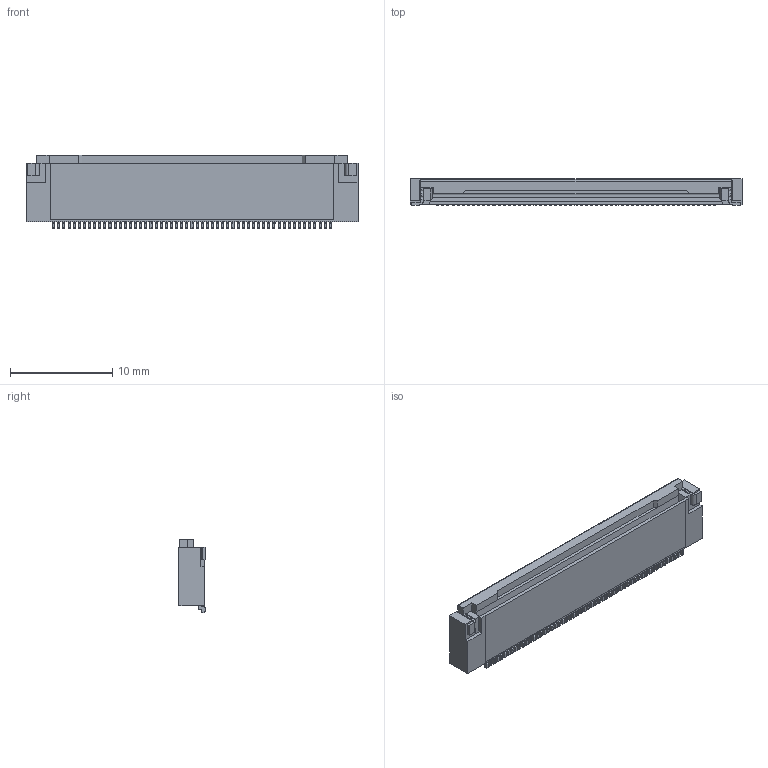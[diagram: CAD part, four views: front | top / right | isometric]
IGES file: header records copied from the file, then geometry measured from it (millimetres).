
Start section: SolidWorks IGES file using analytic representation for surfaces
Global section: file name: 01HC:\3dworks\金子\MINIFLEX5-FF\STEP再作成\ACT　CLOSE\IGES\20647-055E-01 ASS'Y ACT CLOSE IGES R2 ALL.IGS; native system: SolidWorks 2014; preprocessor: SolidWorks 2014; author: ieng2-003; date: 161003.233734; units: millimetre
Bounding box: 32.4 x 2.55 x 7.2 mm (x, y, z)
Surface area: 814.4 mm2 (no closed solid volume)
Topology: 0 solids, 0 shells, 1483 faces, 9946 edges, 9946 vertices
Faces by surface type: bspline 920, revolution 563
